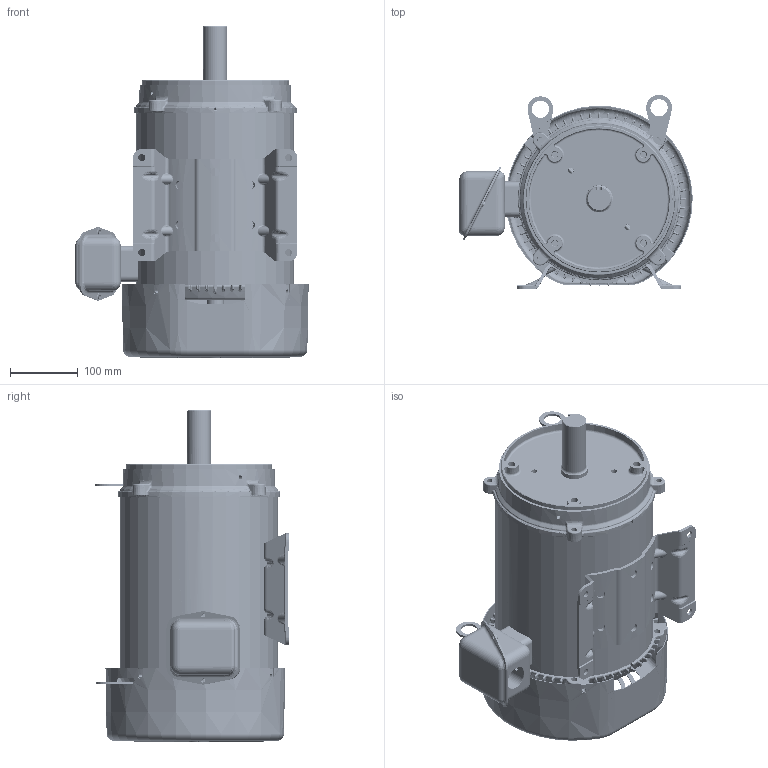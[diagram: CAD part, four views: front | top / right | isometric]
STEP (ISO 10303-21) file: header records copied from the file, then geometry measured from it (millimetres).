
FILE_DESCRIPTION((''),'2;1');
FILE_NAME('215S_ASM_ASM','2014-07-11T',('NMC779F'),('Nidec Motor Corporation'),'PRO/ENGINEER BY PARAMETRIC TECHNOLOGY CORPORATION, 2013150','PRO/ENGINEER BY PARAMETRIC TECHNOLOGY CORPORATION, 2013150','');
FILE_SCHEMA(('CONFIG_CONTROL_DESIGN'));
Length unit declared in the file: inch
Products named in the file (16): 0394523-FR_AF0; 0380744-BKT_AF1; 0298013_AF3; 0380745_ASM; 0391894-BKT_AF0; 0298010_AF0; 0391895_ASM; 0345787; 0396130; 0392698; 0390920; 0390408; 0390417; 0376890; 0951821; 215S_ASM_ASM
Assembly tree (16 placements, depth 3):
  215S_ASM_ASM
    0394523-FR_AF0
    0380745_ASM
      0380744-BKT_AF1
      0298013_AF3
    0391895_ASM
      0391894-BKT_AF0
      0298010_AF0
    0345787
    0396130
    0392698
    0390920
    0390408
    0390417
    0376890  x2
    0951821
Bounding box: 343.56 x 285.41 x 488.55 mm (x, y, z)
Volume: 2500382.2 mm3; surface area: 1243522 mm2
Topology: 16 solids, 16 shells, 3895 faces, 9176 edges, 5277 vertices
Faces by surface type: bspline 1667, cylinder 916, plane 511, torus 382, cone 259, sphere 136, extrusion 24
Entity records: 177617 total; most frequent: CARTESIAN_POINT 98928, ORIENTED_EDGE 18158, DIRECTION 14271, EDGE_CURVE 9079, AXIS2_PLACEMENT_3D 6055, VERTEX_POINT 5261, EDGE_LOOP 4080, FACE_OUTER_BOUND 3885
